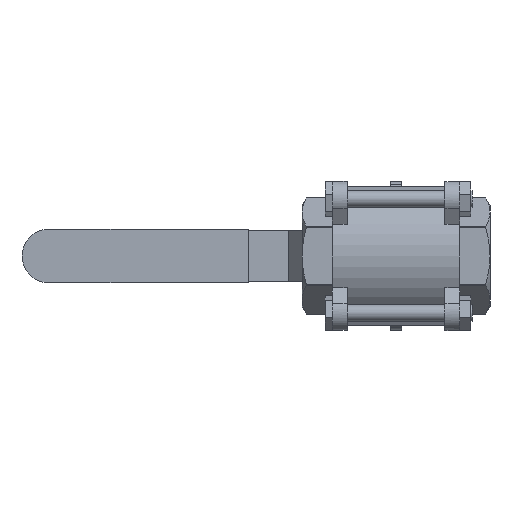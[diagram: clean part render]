
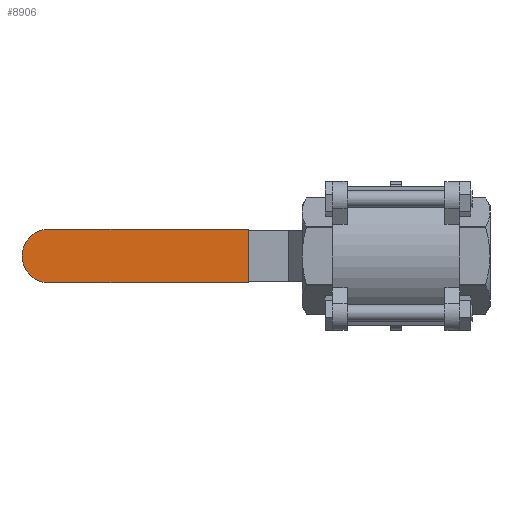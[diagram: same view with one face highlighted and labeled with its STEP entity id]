
A CAD part, front view. The second image highlights one B-rep face of the part: STEP entity #8906.
In plain terms, the highlighted planar face has unit normal (0, -1, 0).
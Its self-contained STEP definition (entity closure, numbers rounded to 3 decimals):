
#71 = CIRCLE ( 'NONE', #4476, 14.5 ) ;
#248 = EDGE_CURVE ( 'NONE', #7647, #8508, #6233, .T. ) ;
#531 = DIRECTION ( 'NONE',  ( 1., 0., 0. ) ) ;
#564 = ORIENTED_EDGE ( 'NONE', *, *, #2639, .F. ) ;
#798 = VECTOR ( 'NONE', #4902, 1000. ) ;
#1456 = DIRECTION ( 'NONE',  ( 0., 1., 0. ) ) ;
#1694 = CARTESIAN_POINT ( 'NONE',  ( -203., 89.5, 138.102 ) ) ;
#2223 = CARTESIAN_POINT ( 'NONE',  ( -188.5, 89.5, 14.5 ) ) ;
#2301 = CARTESIAN_POINT ( 'NONE',  ( -80., 89.5, 138.102 ) ) ;
#2361 = ORIENTED_EDGE ( 'NONE', *, *, #6107, .T. ) ;
#2432 = DIRECTION ( 'NONE',  ( 0., 0., 1. ) ) ;
#2639 = EDGE_CURVE ( 'NONE', #3103, #2753, #71, .T. ) ;
#2753 = VERTEX_POINT ( 'NONE', #2223 ) ;
#2779 = LINE ( 'NONE', #5681, #798 ) ;
#3103 = VERTEX_POINT ( 'NONE', #5548 ) ;
#3150 = PLANE ( 'NONE',  #3873 ) ;
#3362 = VECTOR ( 'NONE', #531, 1000. ) ;
#3841 = DIRECTION ( 'NONE',  ( 0., 0., -1. ) ) ;
#3873 = AXIS2_PLACEMENT_3D ( 'NONE', #1694, #7055, #2432 ) ;
#4337 = CARTESIAN_POINT ( 'NONE',  ( -203., 89.5, -14.5 ) ) ;
#4476 = AXIS2_PLACEMENT_3D ( 'NONE', #6007, #1456, #6791 ) ;
#4853 = ORIENTED_EDGE ( 'NONE', *, *, #248, .F. ) ;
#4902 = DIRECTION ( 'NONE',  ( -1., 0., 0. ) ) ;
#5414 = LINE ( 'NONE', #4337, #3362 ) ;
#5548 = CARTESIAN_POINT ( 'NONE',  ( -188.5, 89.5, -14.5 ) ) ;
#5681 = CARTESIAN_POINT ( 'NONE',  ( -203., 89.5, 14.5 ) ) ;
#5841 = CARTESIAN_POINT ( 'NONE',  ( -80., 89.5, 14.5 ) ) ;
#5990 = VECTOR ( 'NONE', #3841, 1000. ) ;
#6007 = CARTESIAN_POINT ( 'NONE',  ( -188.5, 89.5, 0. ) ) ;
#6107 = EDGE_CURVE ( 'NONE', #7647, #2753, #2779, .T. ) ;
#6196 = FACE_OUTER_BOUND ( 'NONE', #10102, .T. ) ;
#6233 = LINE ( 'NONE', #2301, #5990 ) ;
#6692 = ORIENTED_EDGE ( 'NONE', *, *, #6937, .T. ) ;
#6791 = DIRECTION ( 'NONE',  ( 0., 0., 1. ) ) ;
#6937 = EDGE_CURVE ( 'NONE', #3103, #8508, #5414, .T. ) ;
#7055 = DIRECTION ( 'NONE',  ( 0., 1., 0. ) ) ;
#7647 = VERTEX_POINT ( 'NONE', #5841 ) ;
#8508 = VERTEX_POINT ( 'NONE', #8738 ) ;
#8738 = CARTESIAN_POINT ( 'NONE',  ( -80., 89.5, -14.5 ) ) ;
#8906 = ADVANCED_FACE ( 'NONE', ( #6196 ), #3150, .F. ) ;
#10102 = EDGE_LOOP ( 'NONE', ( #2361, #564, #6692, #4853 ) ) ;
